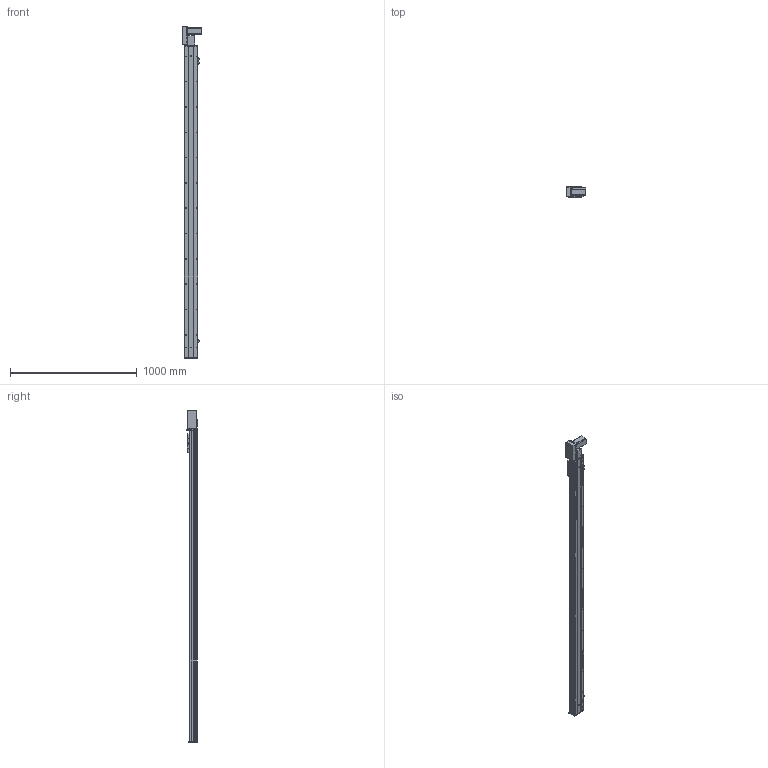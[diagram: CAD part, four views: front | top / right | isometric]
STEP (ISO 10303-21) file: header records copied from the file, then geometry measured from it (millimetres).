
FILE_DESCRIPTION (( 'STEP AP203' ), '1' );
FILE_NAME ('Y10CB-D90-S2200-BL-P400W.STEP', '2020-02-15T08:30:12', ( '微软用户' ), ( '微软中国' ), 'SwSTEP 2.0', 'SolidWorks 2017', '' );
FILE_SCHEMA (( 'CONFIG_CONTROL_DESIGN' ));
Length unit declared in the file: millimetre
Products named in the file (18): Y10B-耜蚾蟀諉啣----; 10CB9-掛极; 0B-萇儂楊擘啣; 10CB-耜裔; san松下电机400不带刹车----; Y135C-陔俋离換覜結え-; 0B-源倛裔啣; Y100-135俋离換覜ん--; 0B-埴倛裔啣; 0CB-雄赽釱---; Y10CB-D90-S2200-BL-P400W; Y俋欶BR----; 0Cb-俋欶---; 10CB-詩湍-; Y10B-々湍喘謫眊楊擘啣--; Y10CB- 掛极耜裔啣-毀---; Y10B--々湍喘謫眊--666; Y10C---詩湍揤啣
Assembly tree (21 placements, depth 2):
  Y10CB-D90-S2200-BL-P400W
    0CB-雄赽釱---
    0Cb-俋欶---
    Y10B-々湍喘謫眊楊擘啣--
    Y10B--々湍喘謫眊--666
    Y10B-耜蚾蟀諉啣----
    0B-萇儂楊擘啣
    san松下电机400不带刹车----
    0B-源倛裔啣
    0B-埴倛裔啣
    Y俋欶BR----
    10CB-詩湍-
    Y10CB- 掛极耜裔啣-毀---  x2
    Y10C---詩湍揤啣  x2
    10CB9-掛极
    10CB-耜裔
    Y135C-陔俋离換覜結え-
    Y100-135俋离換覜ん--  x3
Bounding box: 157.5 x 80.5 x 2622.5 mm (x, y, z)
Volume: 5230692.6 mm3; surface area: 2469127.9 mm2
Topology: 21 solids, 21 shells, 1062 faces, 2883 edges, 1874 vertices
Faces by surface type: cylinder 547, plane 491, cone 24
Entity records: 33904 total; most frequent: CARTESIAN_POINT 6357, DIRECTION 5402, ORIENTED_EDGE 5236, EDGE_CURVE 2618, AXIS2_PLACEMENT_3D 1929, VERTEX_POINT 1700, LINE 1544, VECTOR 1544
